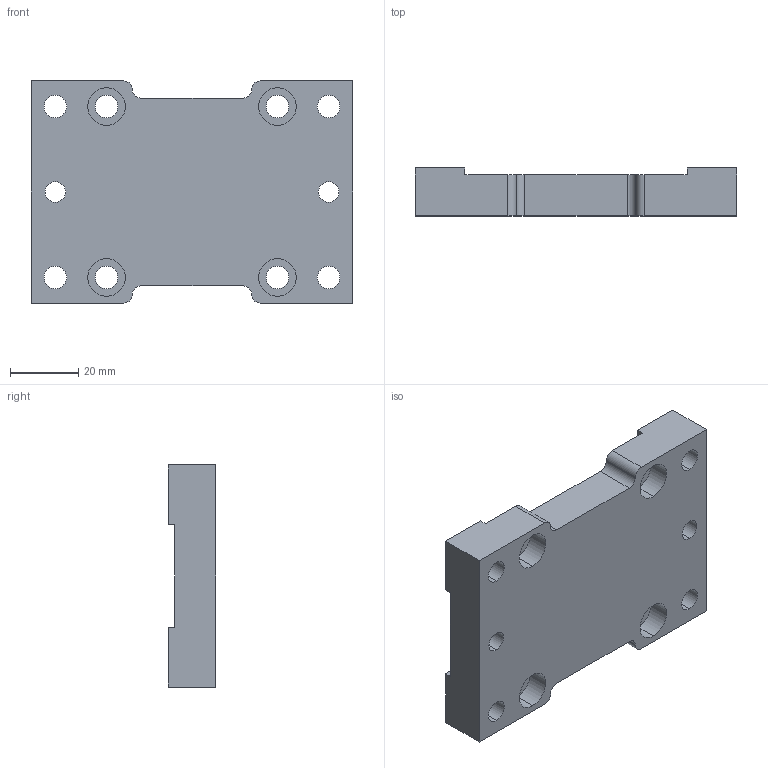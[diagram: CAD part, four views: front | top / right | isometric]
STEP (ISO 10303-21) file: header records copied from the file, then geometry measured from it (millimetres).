
FILE_DESCRIPTION (( 'STEP AP203' ), '1' );
FILE_NAME ('T50J.step', '2017-02-15T12:26:17', ( '' ), ( '' ), 'SwSTEP 2.0', 'SolidWorks 2012', '' );
FILE_SCHEMA (( 'CONFIG_CONTROL_DESIGN' ));
Length unit declared in the file: millimetre
Products named in the file (1): T50J
Bounding box: 94 x 14 x 65 mm (x, y, z)
Volume: 63794.8 mm3; surface area: 18641.8 mm2
Topology: 1 solids, 1 shells, 74 faces, 192 edges, 128 vertices
Faces by surface type: cylinder 44, plane 30
Entity records: 2421 total; most frequent: DIRECTION 430, CARTESIAN_POINT 395, ORIENTED_EDGE 384, EDGE_CURVE 192, AXIS2_PLACEMENT_3D 163, VERTEX_POINT 128, LINE 104, VECTOR 104
